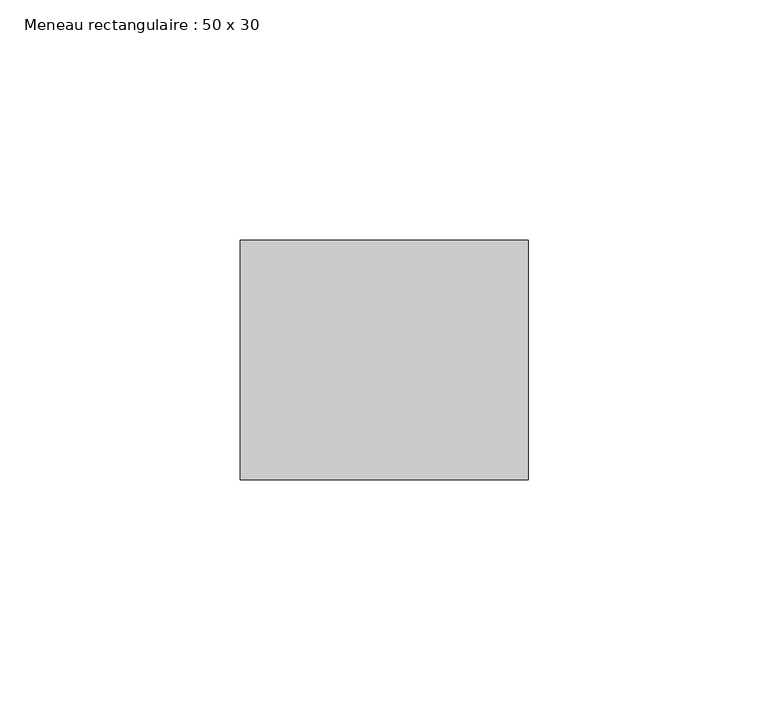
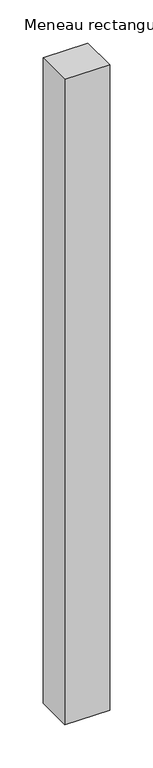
"""IFC4 building model written with IfcOpenShell, lengths in millimetres: member geometry, Meneau rectangulaire : 50 x 30."""

import ifcopenshell
import ifcopenshell.guid

model = None  # the IFC model being written
_history = None  # IfcOwnerHistory: only IFC2X3 demands one
_inside = {}  # id of a spatial element -> (the spatial element, [elements in it])
_under = {}  # id of a project, library or spatial element -> (it, [spatial elements below it])
_declared = {}  # id of a project -> (the project, [libraries it declares])
_typed = {}  # id of a type object -> (the type object, [elements of that type])
_made_of = {}  # id of a material, layer set ... -> (it, [elements and type objects made of it])


def new_model(schema):
    """Start an empty IFC model of exactly this schema.

    Asked for "IFC4X3", IfcOpenShell would pick the latest addendum, in which some entities
    have other attributes; the version numbers below select the first issue.
    IFC2X3 requires an IfcOwnerHistory on every rooted entity: one is made here for all.
    """
    global model, _history
    if schema == "IFC4X3":
        model = ifcopenshell.file(schema_version=(4, 3, 0, 0))
    else:
        model = ifcopenshell.file(schema=schema)
    _inside.clear()
    _under.clear()
    _declared.clear()
    _typed.clear()
    _made_of.clear()
    _history = None
    if model.schema == "IFC2X3":
        org = make("IfcOrganization", Name="unknown")
        user = make(
            "IfcPersonAndOrganization",
            ThePerson=make("IfcPerson", FamilyName="unknown"),
            TheOrganization=org,
        )
        app = make(
            "IfcApplication",
            ApplicationDeveloper=org,
            Version="unknown",
            ApplicationFullName="unknown",
            ApplicationIdentifier="unknown",
        )
        _history = make(
            "IfcOwnerHistory",
            OwningUser=user,
            OwningApplication=app,
            ChangeAction="ADDED",
            CreationDate=0,
        )
    return model


def make(cls, **values):
    """One entity of the class cls with the attributes given. An attribute that is None is left unset."""
    return model.create_entity(
        cls, **{name: value for name, value in values.items() if value is not None}
    )


def rooted(cls, **values):
    """An entity with a GlobalId (a new one), such as an element, a storey or a relation."""
    return make(cls, GlobalId=ifcopenshell.guid.new(), OwnerHistory=_history, **values)


def si_unit(unit_type, name, prefix=None):
    """IfcSIUnit, for example si_unit("LENGTHUNIT", "METRE", prefix="MILLI")."""
    return make("IfcSIUnit", UnitType=unit_type, Prefix=prefix, Name=name)


def assignment(units):
    """IfcUnitAssignment: the units of a project."""
    return None if units is None else make("IfcUnitAssignment", Units=units)


def point(xyz):
    """IfcCartesianPoint."""
    return None if xyz is None else make("IfcCartesianPoint", Coordinates=xyz)


def direction(xyz):
    """IfcDirection."""
    return None if xyz is None else make("IfcDirection", DirectionRatios=xyz)


def frame(location, z_axis=None, x_axis=None):
    """IfcAxis2Placement3D, a coordinate frame: its origin and axes. An axis left out is left unset."""
    return make(
        "IfcAxis2Placement3D",
        Location=point(location),
        Axis=direction(z_axis),
        RefDirection=direction(x_axis),
    )


def origin():
    """The frame at (0, 0, 0) with its axes left unset."""
    return frame((0.0, 0.0, 0.0))


def place(relative_to, where):
    """IfcLocalPlacement: puts the frame where relative to a parent placement (None: the world)."""
    return make(
        "IfcLocalPlacement", PlacementRelTo=relative_to, RelativePlacement=where
    )


def context(
    kind, dimensions, precision=None, world=None, true_north=None, identifier=None
):
    """IfcGeometricRepresentationContext, for example the 3D "Model" context."""
    return make(
        "IfcGeometricRepresentationContext",
        ContextIdentifier=identifier,
        ContextType=kind,
        CoordinateSpaceDimension=dimensions,
        Precision=precision,
        WorldCoordinateSystem=world,
        TrueNorth=true_north,
    )


def project(units=None, contexts=None):
    """IfcProject with its units and contexts."""
    return rooted(
        "IfcProject",
        Name="project",
        RepresentationContexts=contexts,
        UnitsInContext=assignment(units),
    )


def spatial(cls, under=None, at=None, **own):
    """A site, building, storey or space (cls), placed at a placement, below another one or the project."""
    s = rooted(cls, ObjectPlacement=at, **own)
    if under is not None:
        _under.setdefault(under.id(), (under, []))[1].append(s)
    return s


def polyline(points):
    """IfcPolyline through the points."""
    return make("IfcPolyline", Points=[point(p) for p in points])


def outline(outer, holes=None, kind="AREA"):
    """IfcArbitraryClosedProfileDef: a profile drawn as a closed curve; with holes, ...WithVoids."""
    if holes is None:
        return make("IfcArbitraryClosedProfileDef", ProfileType=kind, OuterCurve=outer)
    return make(
        "IfcArbitraryProfileDefWithVoids",
        ProfileType=kind,
        OuterCurve=outer,
        InnerCurves=holes,
    )


def extrude(swept, where, along, depth):
    """IfcExtrudedAreaSolid: the profile swept, set in the frame where, extruded along a direction by depth."""
    return make(
        "IfcExtrudedAreaSolid",
        SweptArea=swept,
        Position=where,
        ExtrudedDirection=direction(along),
        Depth=depth,
    )


def shape(context_of_items, identifier, shape_type, items):
    """IfcShapeRepresentation: the items that make up one representation, for example the "Body"."""
    return make(
        "IfcShapeRepresentation",
        ContextOfItems=context_of_items,
        RepresentationIdentifier=identifier,
        RepresentationType=shape_type,
        Items=items,
    )


def source(mapping_origin, context_of_items, identifier, shape_type, items):
    """IfcRepresentationMap: a shape defined once, which mapped items show again and again."""
    return make(
        "IfcRepresentationMap",
        MappingOrigin=mapping_origin,
        MappedRepresentation=shape(context_of_items, identifier, shape_type, items),
    )


def transform(
    local_origin,
    x_axis=None,
    y_axis=None,
    z_axis=None,
    scale=None,
    scale2=None,
    scale3=None,
    uniform=True,
):
    """IfcCartesianTransformationOperator3D, or its non-uniform kind. x_axis, y_axis, z_axis: its Axis1, 2, 3."""
    if uniform:
        return make(
            "IfcCartesianTransformationOperator3D",
            Axis1=direction(x_axis),
            Axis2=direction(y_axis),
            LocalOrigin=point(local_origin),
            Scale=scale,
            Axis3=direction(z_axis),
        )
    return make(
        "IfcCartesianTransformationOperator3DnonUniform",
        Axis1=direction(x_axis),
        Axis2=direction(y_axis),
        LocalOrigin=point(local_origin),
        Scale=scale,
        Axis3=direction(z_axis),
        Scale2=scale2,
        Scale3=scale3,
    )


def mapped(mapping_source, mapping_target):
    """IfcMappedItem: shows the shape of a source again, moved by a transform."""
    return make(
        "IfcMappedItem", MappingSource=mapping_source, MappingTarget=mapping_target
    )


def made_of(thing, what):
    """Note that an element or type object is made of a material, layer set ...; save() writes the relation."""
    if what is not None:
        _made_of.setdefault(what.id(), (what, []))[1].append(thing)
    return thing


def element(
    cls,
    number,
    at=None,
    inside=None,
    cuts=None,
    type_object=None,
    material=None,
    context=None,
    identifier="Body",
    shape_type=None,
    held_by="IfcProductDefinitionShape",
    body=None,
    shapes=None,
    **own,
):
    """One element of the class cls, such as IfcWall. Its Tag is "e" and its number.

    at: its placement. inside: the storey or other place that contains it. cuts: it is an
    opening in that element (IfcRelVoidsElement). A single representation is given by context,
    identifier, shape_type and body (its items); several are given by shapes. held_by: the class
    of the entity that holds the representations. save() writes the other relations.
    """
    e = rooted(cls, Tag="e%d" % number, ObjectPlacement=at, **own)
    if body is not None:
        shapes = [shape(context, identifier, shape_type, body)]
    if shapes is not None:
        e.Representation = make(held_by, Representations=shapes)
    if inside is not None:
        _inside.setdefault(inside.id(), (inside, []))[1].append(e)
    if cuts is not None:
        rooted(
            "IfcRelVoidsElement", RelatingBuildingElement=cuts, RelatedOpeningElement=e
        )
    if type_object is not None:
        _typed.setdefault(type_object.id(), (type_object, []))[1].append(e)
    return made_of(e, material)


def aggregate(whole, parts):
    """IfcRelAggregates: a whole, such as a stair, and the parts it consists of."""
    return rooted("IfcRelAggregates", RelatingObject=whole, RelatedObjects=parts)


def save(model, path):
    """Write the relations noted so far, then the file.

    IfcRelAggregates (storeys below a building ...), IfcRelContainedInSpatialStructure (elements
    in a storey), IfcRelDefinesByType, IfcRelAssociatesMaterial and IfcRelDeclares: one each for
    every whole, place, type object, material and project.
    """
    for whole, parts in _under.values():
        aggregate(whole, parts)
    for where, things in _inside.values():
        rooted(
            "IfcRelContainedInSpatialStructure",
            RelatedElements=things,
            RelatingStructure=where,
        )
    for kind, things in _typed.values():
        rooted("IfcRelDefinesByType", RelatedObjects=things, RelatingType=kind)
    for what, things in _made_of.values():
        rooted("IfcRelAssociatesMaterial", RelatedObjects=things, RelatingMaterial=what)
    for by, libraries in _declared.values():
        rooted("IfcRelDeclares", RelatingContext=by, RelatedDefinitions=libraries)
    model.write(path)


def meneau_rectangulaire_50_x_30_f084a7fc(model_context):
    return source(origin(), model_context, "Body", "SweptSolid", [
        extrude(outline(polyline([(30.0, 0.0), (30.0, -50.0), (-30.0, -50.0), (-30.0, 0.0), (30.0, 0.0)])), frame((0.0, 0.0, -913.1760148), z_axis=(0.0, 0.0, 1.0), x_axis=(1.0, 0.0, 0.0)), (0.0, 0.0, 1.0), 913.1760148),
    ])


if __name__ == "__main__":
    model = new_model("IFC4")
    model_context = context("Model", 3, world=origin())
    ifc_project = project(units=[si_unit("LENGTHUNIT", "METRE", prefix="MILLI")], contexts=[model_context])
    site = spatial("IfcSite", under=ifc_project)
    building = spatial("IfcBuilding", under=site)
    placement = place(None, origin())
    meneau_rectangulaire_50_x_30_shape = meneau_rectangulaire_50_x_30_f084a7fc(model_context)
    element("IfcMember", 1, ObjectType="Meneau rectangulaire : 50 x 30", at=placement, inside=building, context=model_context, shape_type="MappedRepresentation", body=[
        mapped(meneau_rectangulaire_50_x_30_shape, transform((0.0, 0.0, 0.0), x_axis=(1.0, 0.0, 0.0), y_axis=(0.0, 1.0, 0.0), z_axis=(0.0, 0.0, 1.0))),
    ])
    save(model, "model.ifc")
